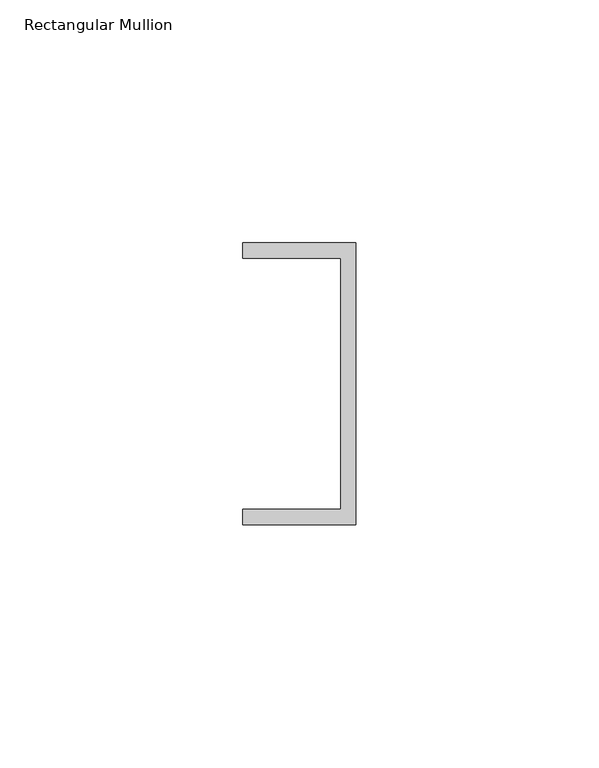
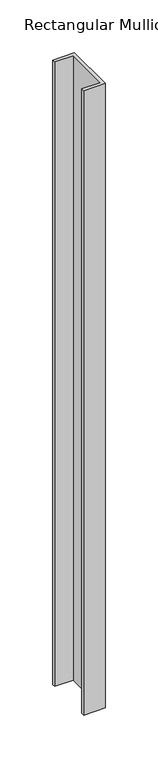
"""IFC4 building model written with IfcOpenShell, lengths in millimetres: member geometry, Rectangular Mullion : Frame-Teknion-Altos-Ceiling_Channel."""

from ifc_helpers import new_model, si_unit, frame, origin, place, context, project, spatial, polyline, outline, extrude, source, transform, mapped, element, save


def rectangular_mullion_f8e9f487(model_context):
    return source(origin(), model_context, "Body", "SweptSolid", [
        extrude(outline(polyline([(0.0, 29.0214844), (0.0, -29.0214844), (-23.3164063, -29.0214844), (-23.3164063, -25.8464844), (-3.175, -25.8464844), (-3.175, 25.8464844), (-23.3164063, 25.8464844), (-23.3164063, 29.0214844), (0.0, 29.0214844)])), frame((0.0, 0.0, -720.0304688), z_axis=(0.0, 0.0, 1.0), x_axis=(1.0, 0.0, 0.0)), (0.0, 0.0, 1.0), 720.0304688),
    ])


if __name__ == "__main__":
    model = new_model("IFC4")
    model_context = context("Model", 3, world=origin())
    ifc_project = project(units=[si_unit("LENGTHUNIT", "METRE", prefix="MILLI")], contexts=[model_context])
    site = spatial("IfcSite", under=ifc_project)
    building = spatial("IfcBuilding", under=site)
    placement = place(None, origin())
    rectangular_mullion_shape = rectangular_mullion_f8e9f487(model_context)
    element("IfcMember", 1, ObjectType="Rectangular Mullion : Frame-Teknion-Altos-Ceiling_Channel", at=placement, inside=building, context=model_context, shape_type="MappedRepresentation", body=[
        mapped(rectangular_mullion_shape, transform((0.0, 0.0, 0.0), x_axis=(1.0, 0.0, 0.0), y_axis=(0.0, 1.0, 0.0), z_axis=(0.0, 0.0, 1.0))),
    ])
    save(model, "model.ifc")
